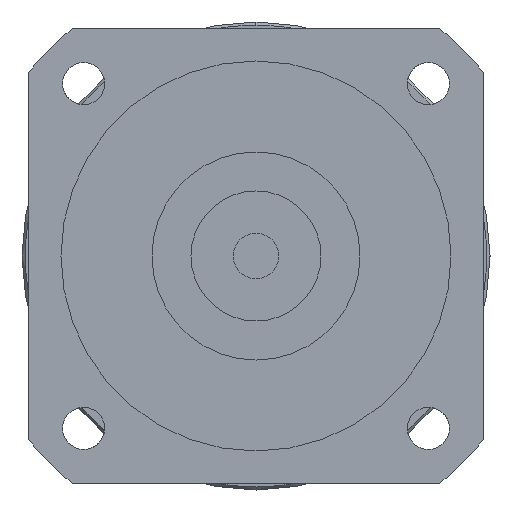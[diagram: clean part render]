
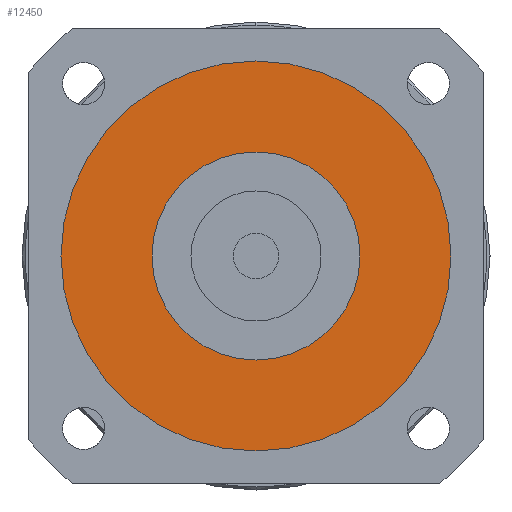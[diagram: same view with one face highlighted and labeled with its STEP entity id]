
A CAD part, left-side view. The second image highlights one B-rep face of the part: STEP entity #12450.
In plain terms, the highlighted planar face has unit normal (-1, 0, 0) as drawn and (0, 0, -1) by its records, which use the part's own axes.
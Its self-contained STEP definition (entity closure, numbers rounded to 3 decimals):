
#12100=CARTESIAN_POINT('',(0.,0.,
-88.));
#12110=DIRECTION('',(0.,0.,1.));
#12120=DIRECTION('',(-1.,0.,0.));
#12130=AXIS2_PLACEMENT_3D('',#12100,#12110,#12120);
#12140=PLANE('',#12130);
#12150=CARTESIAN_POINT('',(0.,0.,
-88.));
#12160=DIRECTION('',(0.,0.,1.));
#12170=DIRECTION('',(0.,-1.,0.));
#12180=AXIS2_PLACEMENT_3D('',#12150,#12160,#12170);
#12190=CIRCLE('',#12180,30.);
#12200=CARTESIAN_POINT('',(-30.,0.,-88.));
#12210=VERTEX_POINT('',#12200);
#12220=CARTESIAN_POINT('',(30.,0.,-88.));
#12230=VERTEX_POINT('',#12220);
#12240=EDGE_CURVE('',#12210,#12230,#12190,.T.);
#12250=ORIENTED_EDGE('',*,*,#12240,.F.);
#12260=EDGE_CURVE('',#12230,#12210,#12190,.T.);
#12270=ORIENTED_EDGE('',*,*,#12260,.F.);
#12280=EDGE_LOOP('',(#12270,#12250));
#12290=FACE_OUTER_BOUND('',#12280,.T.);
#12300=CARTESIAN_POINT('',(0.,0.,
-88.));
#12310=DIRECTION('',(0.,0.,1.));
#12320=DIRECTION('',(0.,-1.,0.));
#12330=AXIS2_PLACEMENT_3D('',#12300,#12310,#12320);
#12340=CIRCLE('',#12330,16.);
#12350=CARTESIAN_POINT('',(-16.,0.,-88.));
#12360=VERTEX_POINT('',#12350);
#12370=CARTESIAN_POINT('',(16.,0.,-88.));
#12380=VERTEX_POINT('',#12370);
#12390=EDGE_CURVE('',#12360,#12380,#12340,.T.);
#12400=ORIENTED_EDGE('',*,*,#12390,.T.);
#12410=EDGE_CURVE('',#12380,#12360,#12340,.T.);
#12420=ORIENTED_EDGE('',*,*,#12410,.T.);
#12430=EDGE_LOOP('',(#12420,#12400));
#12440=FACE_BOUND('',#12430,.T.);
#12450=ADVANCED_FACE('',(#12290,#12440),#12140,.F.);
